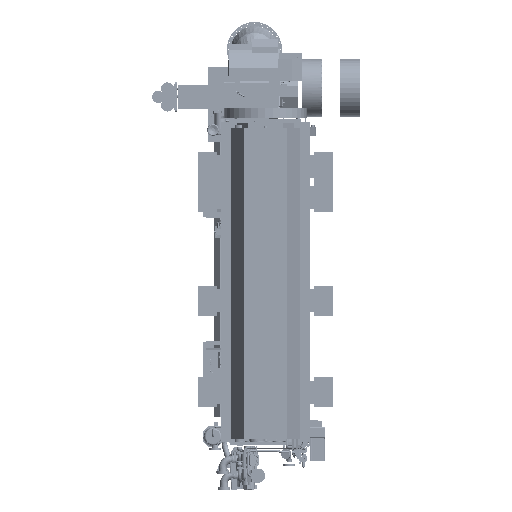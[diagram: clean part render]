
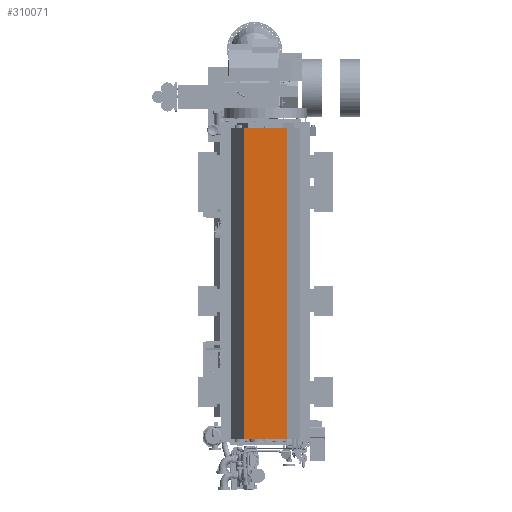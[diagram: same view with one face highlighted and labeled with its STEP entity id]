
A CAD part, front view. The second image highlights one B-rep face of the part: STEP entity #310071.
In plain terms, the highlighted planar face has unit normal (0, -1, 0).
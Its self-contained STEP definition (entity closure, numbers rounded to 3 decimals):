
#307904=DIRECTION('',(-1.,0.,0.));
#307905=VECTOR('',#307904,760.);
#307906=CARTESIAN_POINT('',(380.,-1377.,507.));
#307907=LINE('',#307906,#307905);
#308242=DIRECTION('',(-1.,0.,0.));
#308243=VECTOR('',#308242,760.);
#308244=CARTESIAN_POINT('',(380.,-1377.,-4885.));
#308245=LINE('',#308244,#308243);
#308298=DIRECTION('',(0.,0.,-1.));
#308299=VECTOR('',#308298,5392.);
#308300=CARTESIAN_POINT('',(380.,-1377.,507.));
#308301=LINE('',#308300,#308299);
#308302=DIRECTION('',(0.,0.,-1.));
#308303=VECTOR('',#308302,5392.);
#308304=CARTESIAN_POINT('',(-380.,-1377.,507.));
#308305=LINE('',#308304,#308303);
#309194=CARTESIAN_POINT('',(380.,-1377.,507.));
#309195=VERTEX_POINT('',#309194);
#309196=CARTESIAN_POINT('',(-380.,-1377.,507.));
#309197=VERTEX_POINT('',#309196);
#309206=CARTESIAN_POINT('',(380.,-1377.,-4885.));
#309207=VERTEX_POINT('',#309206);
#309208=CARTESIAN_POINT('',(-380.,-1377.,-4885.));
#309209=VERTEX_POINT('',#309208);
#310059=CARTESIAN_POINT('',(380.,-1377.,507.));
#310060=DIRECTION('',(0.,-1.,0.));
#310061=DIRECTION('',(-1.,0.,0.));
#310062=AXIS2_PLACEMENT_3D('',#310059,#310060,#310061);
#310063=PLANE('',#310062);
#310064=ORIENTED_EDGE('',*,*,#309583,.F.);
#310065=ORIENTED_EDGE('',*,*,#310054,.T.);
#310066=ORIENTED_EDGE('',*,*,#309901,.T.);
#310068=ORIENTED_EDGE('',*,*,#310067,.F.);
#310069=EDGE_LOOP('',(#310064,#310065,#310066,#310068));
#310070=FACE_OUTER_BOUND('',#310069,.F.);
#310071=ADVANCED_FACE('',(#310070),#310063,.T.);
#309583=EDGE_CURVE('',#309195,#309197,#307907,.T.);
#309901=EDGE_CURVE('',#309207,#309209,#308245,.T.);
#310054=EDGE_CURVE('',#309195,#309207,#308301,.T.);
#310067=EDGE_CURVE('',#309197,#309209,#308305,.T.);
